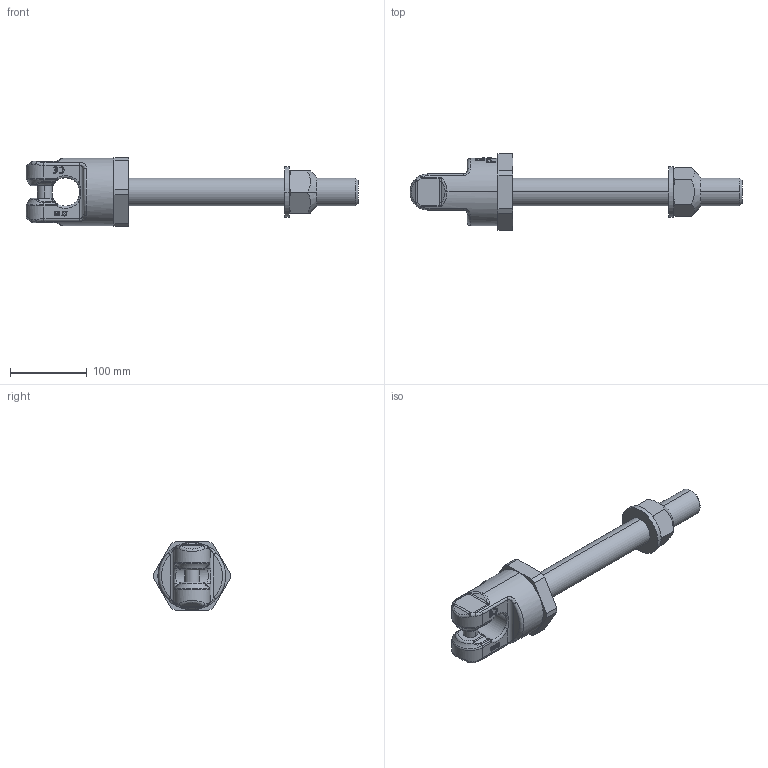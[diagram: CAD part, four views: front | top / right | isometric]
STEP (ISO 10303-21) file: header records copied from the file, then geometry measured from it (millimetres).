
FILE_DESCRIPTION((''),'2;1');
FILE_NAME('001-M32231-P-20_ASM','2019-11-11T',('anja.joas'),(''),'PRO/ENGINEER BY PARAMETRIC TECHNOLOGY CORPORATION, 2011490','PRO/ENGINEER BY PARAMETRIC TECHNOLOGY CORPORATION, 2011490','');
FILE_SCHEMA(('CONFIG_CONTROL_DESIGN'));
Length unit declared in the file: millimetre
Products named in the file (6): 001-M31342-P-20_AF0; 001-M32231-P-50_AF0; 001-M32231-P-60_ASM; 001-M31624-V08; 001-M31328-V09; 001-M32231-P-20_ASM
Assembly tree (5 placements, depth 3):
  001-M32231-P-20_ASM
    001-M31342-P-20_AF0
    001-M32231-P-60_ASM
      001-M32231-P-50_AF0
    001-M31624-V08
    001-M31328-V09
Bounding box: 434 x 100 x 90 mm (x, y, z)
Volume: 946977.9 mm3; surface area: 114414.9 mm2
Topology: 4 solids, 4 shells, 535 faces, 1386 edges, 880 vertices
Faces by surface type: plane 347, bspline 76, cylinder 74, torus 16, cone 14, sphere 8
Entity records: 19790 total; most frequent: CARTESIAN_POINT 7548, ORIENTED_EDGE 2772, DIRECTION 2156, EDGE_CURVE 1386, VERTEX_POINT 880, AXIS2_PLACEMENT_3D 739, VECTOR 678, LINE 678
